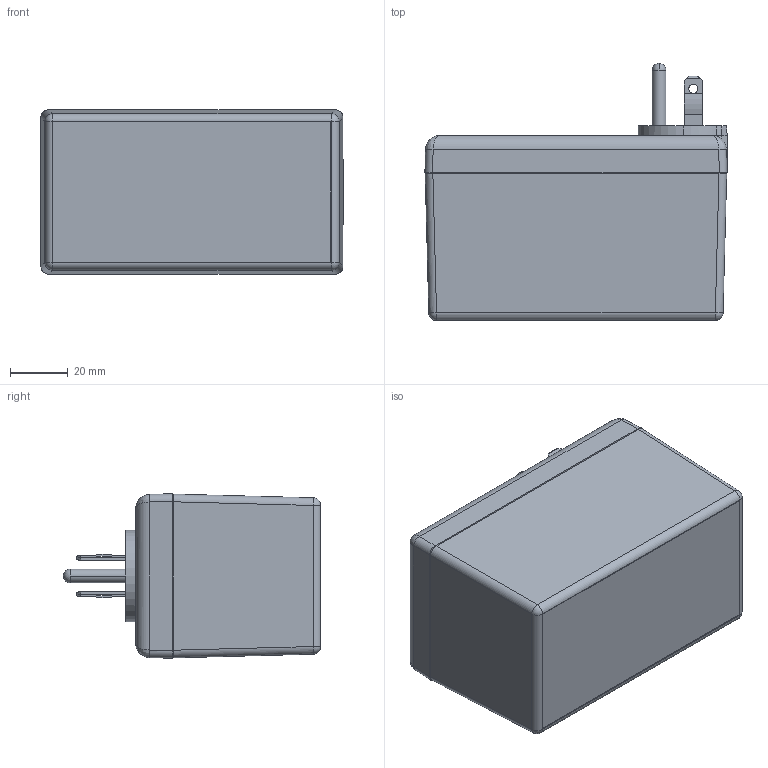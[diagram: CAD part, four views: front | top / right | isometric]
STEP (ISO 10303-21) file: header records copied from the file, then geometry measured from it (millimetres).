
FILE_DESCRIPTION (( 'STEP AP214' ), '1' );
FILE_NAME ('PM2425R03XNT.STEP', '2010-07-15T14:15:53', ( '' ), ( '' ), 'SwSTEP 2.0', 'SolidWorks 2010', '' );
FILE_SCHEMA (( 'AUTOMOTIVE_DESIGN' ));
Length unit declared in the file: inch
Products named in the file (10): TS-2420B AND PM2420_TS-2420BP-R; B2405 ASS''Y_B24053XNT; MPB2405_MPB24053NT; GND-PIN; BLADES; WELD DISC-PS-BK; GND-TAB; SCREWS-HL1-BR; B2405-PCB; PM2425R03XNT
Assembly tree (13 placements, depth 3):
  PM2425R03XNT
    SCREWS-HL1-BR  x4
    B2405 ASS''Y_B24053XNT
      BLADES  x2
      WELD DISC-PS-BK
      GND-PIN
      GND-TAB
      MPB2405_MPB24053NT
    TS-2420B AND PM2420_TS-2420BP-R
    B2405-PCB
Bounding box: 104.6 x 89.03 x 56.95 mm (x, y, z)
Volume: 88639.4 mm3; surface area: 83102.5 mm2
Topology: 12 solids, 12 shells, 950 faces, 2644 edges, 1727 vertices
Faces by surface type: cylinder 522, plane 297, cone 77, bspline 28, sphere 14, torus 12
Entity records: 20517 total; most frequent: CARTESIAN_POINT 6531, ORIENTED_EDGE 3006, DIRECTION 2705, EDGE_CURVE 1503, VERTEX_POINT 977, AXIS2_PLACEMENT_3D 976, VECTOR 753, LINE 753
